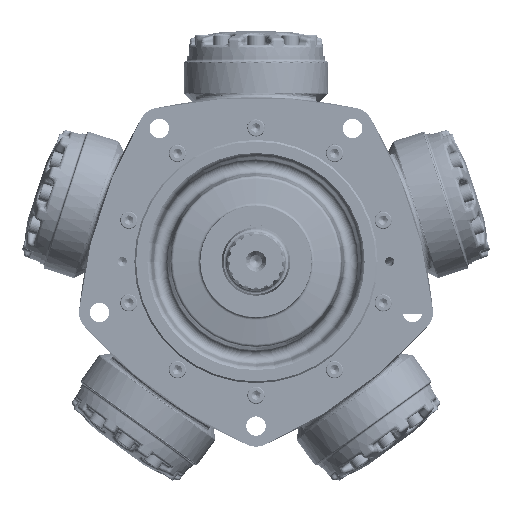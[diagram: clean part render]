
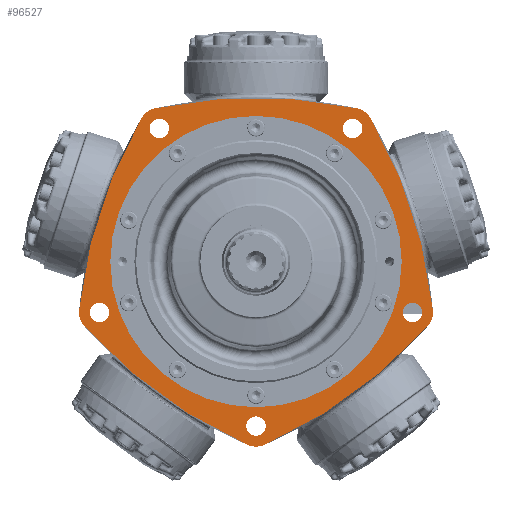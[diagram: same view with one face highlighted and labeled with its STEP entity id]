
A CAD part, top view. The second image highlights one B-rep face of the part: STEP entity #96527.
In plain terms, the highlighted planar face has unit normal (0, 0, 1).
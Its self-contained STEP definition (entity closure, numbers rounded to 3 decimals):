
#5067=PLANE('',#103477);
#11687=FACE_BOUND('',#18785,.T.);
#11688=FACE_BOUND('',#18786,.T.);
#11689=FACE_BOUND('',#18787,.T.);
#11690=FACE_BOUND('',#18788,.T.);
#11691=FACE_BOUND('',#18789,.T.);
#11692=FACE_BOUND('',#18790,.T.);
#12514=FACE_OUTER_BOUND('',#18784,.T.);
#18784=EDGE_LOOP('',(#63728,#63729,#63730,#63731,#63732,#63733,#63734,#63735,
#63736,#63737));
#18785=EDGE_LOOP('',(#63738));
#18786=EDGE_LOOP('',(#63739));
#18787=EDGE_LOOP('',(#63740));
#18788=EDGE_LOOP('',(#63741));
#18789=EDGE_LOOP('',(#63742));
#18790=EDGE_LOOP('',(#63743));
#25207=CIRCLE('',#103304,9.);
#25209=CIRCLE('',#103307,9.);
#25211=CIRCLE('',#103310,9.);
#25213=CIRCLE('',#103313,9.);
#25215=CIRCLE('',#103316,9.);
#25302=CIRCLE('',#103476,134.957);
#25303=CIRCLE('',#103478,19.05);
#25304=CIRCLE('',#103479,444.5);
#25305=CIRCLE('',#103480,19.05);
#25306=CIRCLE('',#103481,444.5);
#25307=CIRCLE('',#103482,19.05);
#25308=CIRCLE('',#103483,444.5);
#25309=CIRCLE('',#103484,19.05);
#25310=CIRCLE('',#103485,444.5);
#25311=CIRCLE('',#103486,19.05);
#25312=CIRCLE('',#103487,444.5);
#38430=VERTEX_POINT('',#140316);
#38432=VERTEX_POINT('',#140322);
#38434=VERTEX_POINT('',#140328);
#38436=VERTEX_POINT('',#140334);
#38438=VERTEX_POINT('',#140340);
#38671=VERTEX_POINT('',#142439);
#38672=VERTEX_POINT('',#142443);
#38673=VERTEX_POINT('',#142444);
#38674=VERTEX_POINT('',#142446);
#38675=VERTEX_POINT('',#142448);
#38676=VERTEX_POINT('',#142450);
#38677=VERTEX_POINT('',#142452);
#38678=VERTEX_POINT('',#142454);
#38679=VERTEX_POINT('',#142456);
#38680=VERTEX_POINT('',#142458);
#38681=VERTEX_POINT('',#142460);
#47559=EDGE_CURVE('',#38430,#38430,#25207,.T.);
#47562=EDGE_CURVE('',#38432,#38432,#25209,.T.);
#47565=EDGE_CURVE('',#38434,#38434,#25211,.T.);
#47568=EDGE_CURVE('',#38436,#38436,#25213,.T.);
#47571=EDGE_CURVE('',#38438,#38438,#25215,.T.);
#47850=EDGE_CURVE('',#38671,#38671,#25302,.T.);
#47851=EDGE_CURVE('',#38672,#38673,#25303,.T.);
#47852=EDGE_CURVE('',#38674,#38672,#25304,.T.);
#47853=EDGE_CURVE('',#38675,#38674,#25305,.T.);
#47854=EDGE_CURVE('',#38676,#38675,#25306,.T.);
#47855=EDGE_CURVE('',#38677,#38676,#25307,.T.);
#47856=EDGE_CURVE('',#38678,#38677,#25308,.T.);
#47857=EDGE_CURVE('',#38679,#38678,#25309,.T.);
#47858=EDGE_CURVE('',#38680,#38679,#25310,.T.);
#47859=EDGE_CURVE('',#38681,#38680,#25311,.T.);
#47860=EDGE_CURVE('',#38673,#38681,#25312,.T.);
#63728=ORIENTED_EDGE('',*,*,#47851,.F.);
#63729=ORIENTED_EDGE('',*,*,#47852,.F.);
#63730=ORIENTED_EDGE('',*,*,#47853,.F.);
#63731=ORIENTED_EDGE('',*,*,#47854,.F.);
#63732=ORIENTED_EDGE('',*,*,#47855,.F.);
#63733=ORIENTED_EDGE('',*,*,#47856,.F.);
#63734=ORIENTED_EDGE('',*,*,#47857,.F.);
#63735=ORIENTED_EDGE('',*,*,#47858,.F.);
#63736=ORIENTED_EDGE('',*,*,#47859,.F.);
#63737=ORIENTED_EDGE('',*,*,#47860,.F.);
#63738=ORIENTED_EDGE('',*,*,#47559,.T.);
#63739=ORIENTED_EDGE('',*,*,#47562,.T.);
#63740=ORIENTED_EDGE('',*,*,#47565,.T.);
#63741=ORIENTED_EDGE('',*,*,#47568,.T.);
#63742=ORIENTED_EDGE('',*,*,#47571,.T.);
#63743=ORIENTED_EDGE('',*,*,#47850,.F.);
#96527=ADVANCED_FACE('',(#12514,#11687,#11688,#11689,#11690,#11691,#11692),
#5067,.F.);
#103304=AXIS2_PLACEMENT_3D('',#140318,#114161,#114162);
#103307=AXIS2_PLACEMENT_3D('',#140324,#114168,#114169);
#103310=AXIS2_PLACEMENT_3D('',#140330,#114175,#114176);
#103313=AXIS2_PLACEMENT_3D('',#140336,#114182,#114183);
#103316=AXIS2_PLACEMENT_3D('',#140342,#114189,#114190);
#103476=AXIS2_PLACEMENT_3D('',#142441,#114552,#114553);
#103477=AXIS2_PLACEMENT_3D('',#142442,#114554,#114555);
#103478=AXIS2_PLACEMENT_3D('',#142445,#114556,#114557);
#103479=AXIS2_PLACEMENT_3D('',#142447,#114558,#114559);
#103480=AXIS2_PLACEMENT_3D('',#142449,#114560,#114561);
#103481=AXIS2_PLACEMENT_3D('',#142451,#114562,#114563);
#103482=AXIS2_PLACEMENT_3D('',#142453,#114564,#114565);
#103483=AXIS2_PLACEMENT_3D('',#142455,#114566,#114567);
#103484=AXIS2_PLACEMENT_3D('',#142457,#114568,#114569);
#103485=AXIS2_PLACEMENT_3D('',#142459,#114570,#114571);
#103486=AXIS2_PLACEMENT_3D('',#142461,#114572,#114573);
#103487=AXIS2_PLACEMENT_3D('',#142462,#114574,#114575);
#114161=DIRECTION('center_axis',(0.,0.,-1.));
#114162=DIRECTION('ref_axis',(-1.,0.,0.));
#114168=DIRECTION('center_axis',(0.,0.,-1.));
#114169=DIRECTION('ref_axis',(-1.,0.,0.));
#114175=DIRECTION('center_axis',(0.,0.,-1.));
#114176=DIRECTION('ref_axis',(-1.,0.,0.));
#114182=DIRECTION('center_axis',(0.,0.,-1.));
#114183=DIRECTION('ref_axis',(-1.,0.,0.));
#114189=DIRECTION('center_axis',(0.,0.,-1.));
#114190=DIRECTION('ref_axis',(-1.,0.,0.));
#114552=DIRECTION('center_axis',(0.,0.,1.));
#114553=DIRECTION('ref_axis',(-1.,0.,0.));
#114554=DIRECTION('center_axis',(0.,0.,-1.));
#114555=DIRECTION('ref_axis',(-1.,0.,0.));
#114556=DIRECTION('center_axis',(0.,0.,-1.));
#114557=DIRECTION('ref_axis',(-0.995,-0.102,0.));
#114558=DIRECTION('center_axis',(0.,0.,-1.));
#114559=DIRECTION('ref_axis',(-0.865,-0.502,0.));
#114560=DIRECTION('center_axis',(0.,0.,-1.));
#114561=DIRECTION('ref_axis',(-0.211,-0.978,0.));
#114562=DIRECTION('center_axis',(0.,0.,-1.));
#114563=DIRECTION('ref_axis',(0.211,-0.978,0.));
#114564=DIRECTION('center_axis',(0.,0.,-1.));
#114565=DIRECTION('ref_axis',(0.865,-0.502,0.));
#114566=DIRECTION('center_axis',(0.,0.,-1.));
#114567=DIRECTION('ref_axis',(0.995,-0.102,0.));
#114568=DIRECTION('center_axis',(0.,0.,-1.));
#114569=DIRECTION('ref_axis',(0.745,0.667,0.));
#114570=DIRECTION('center_axis',(0.,0.,-1.));
#114571=DIRECTION('ref_axis',(0.404,0.915,0.));
#114572=DIRECTION('center_axis',(0.,0.,-1.));
#114573=DIRECTION('ref_axis',(-0.404,0.915,0.));
#114574=DIRECTION('center_axis',(0.,0.,-1.));
#114575=DIRECTION('ref_axis',(-0.745,0.667,0.));
#140316=CARTESIAN_POINT('',(-80.578,123.294,81.534));
#140318=CARTESIAN_POINT('Origin',(-89.578,123.294,81.534));
#140322=CARTESIAN_POINT('',(98.578,123.294,81.534));
#140324=CARTESIAN_POINT('Origin',(89.578,123.294,81.534));
#140328=CARTESIAN_POINT('',(-135.941,-47.094,81.534));
#140330=CARTESIAN_POINT('Origin',(-144.941,-47.094,81.534));
#140334=CARTESIAN_POINT('',(153.941,-47.094,81.534));
#140336=CARTESIAN_POINT('Origin',(144.941,-47.094,81.534));
#140340=CARTESIAN_POINT('',(9.,-152.4,81.534));
#140342=CARTESIAN_POINT('Origin',(0.,-152.4,81.534));
#142439=CARTESIAN_POINT('',(0.,-134.957,81.534));
#142441=CARTESIAN_POINT('Origin',(0.,0.,81.534));
#142442=CARTESIAN_POINT('Origin',(0.,233.59,81.534));
#142443=CARTESIAN_POINT('',(163.892,-45.154,81.534));
#142444=CARTESIAN_POINT('',(159.132,-59.803,81.534));
#142445=CARTESIAN_POINT('Origin',(144.941,-47.094,81.534));
#142446=CARTESIAN_POINT('',(106.05,132.864,81.534));
#142447=CARTESIAN_POINT('Origin',(-278.297,-90.424,81.534));
#142448=CARTESIAN_POINT('',(93.589,141.917,81.534));
#142449=CARTESIAN_POINT('Origin',(89.578,123.294,81.534));
#142450=CARTESIAN_POINT('',(-93.589,141.917,81.534));
#142451=CARTESIAN_POINT('Origin',(0.,-292.619,
81.534));
#142452=CARTESIAN_POINT('',(-106.05,132.864,81.534));
#142453=CARTESIAN_POINT('Origin',(-89.578,123.294,81.534));
#142454=CARTESIAN_POINT('',(-163.892,-45.154,81.534));
#142455=CARTESIAN_POINT('Origin',(278.297,-90.424,81.534));
#142456=CARTESIAN_POINT('',(-159.132,-59.803,81.534));
#142457=CARTESIAN_POINT('Origin',(-144.941,-47.094,81.534));
#142458=CARTESIAN_POINT('',(-7.701,-169.824,81.534));
#142459=CARTESIAN_POINT('Origin',(171.997,236.733,81.534));
#142460=CARTESIAN_POINT('',(7.701,-169.824,81.534));
#142461=CARTESIAN_POINT('Origin',(0.,-152.4,81.534));
#142462=CARTESIAN_POINT('Origin',(-171.997,236.733,81.534));
